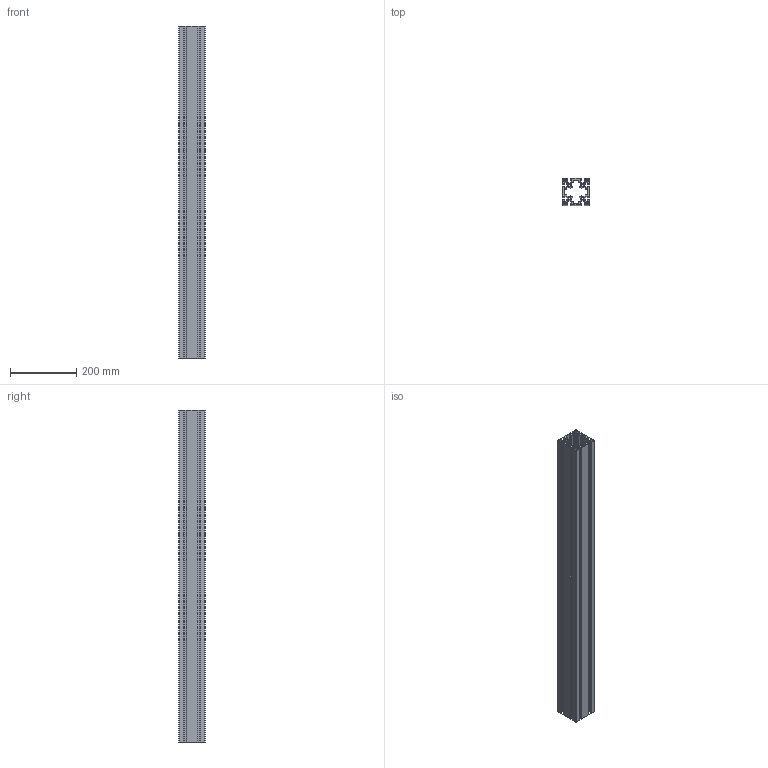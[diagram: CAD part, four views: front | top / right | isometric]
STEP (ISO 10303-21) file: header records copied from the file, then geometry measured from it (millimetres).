
FILE_DESCRIPTION((''),'2;1');
FILE_NAME('\\Dtp_2\share\iriguchi2\M8フレーム\AFS-8080-8.stp','2014-12-01T13:07:31',('AMS8'),(''),'Autodesk Inventor 2008','Autodesk Inventor 2008','');
FILE_SCHEMA(('AUTOMOTIVE_DESIGN { 1 0 10303 214 1 1 1 1 }'));
Length unit declared in the file: millimetre
Products named in the file (1): Part53
Bounding box: 80 x 80 x 1000 mm (x, y, z)
Volume: 2144537.4 mm3; surface area: 1084327.2 mm2
Topology: 1 solids, 1 shells, 298 faces, 888 edges, 592 vertices
Faces by surface type: cylinder 152, plane 146
Full cylindrical faces by diameter (mm): 6.8 x4, 8 x4
Entity records: 10118 total; most frequent: DIRECTION 1782, CARTESIAN_POINT 1771, ORIENTED_EDGE 1760, EDGE_CURVE 880, AXIS2_PLACEMENT_3D 603, VERTEX_POINT 592, VECTOR 576, LINE 576
